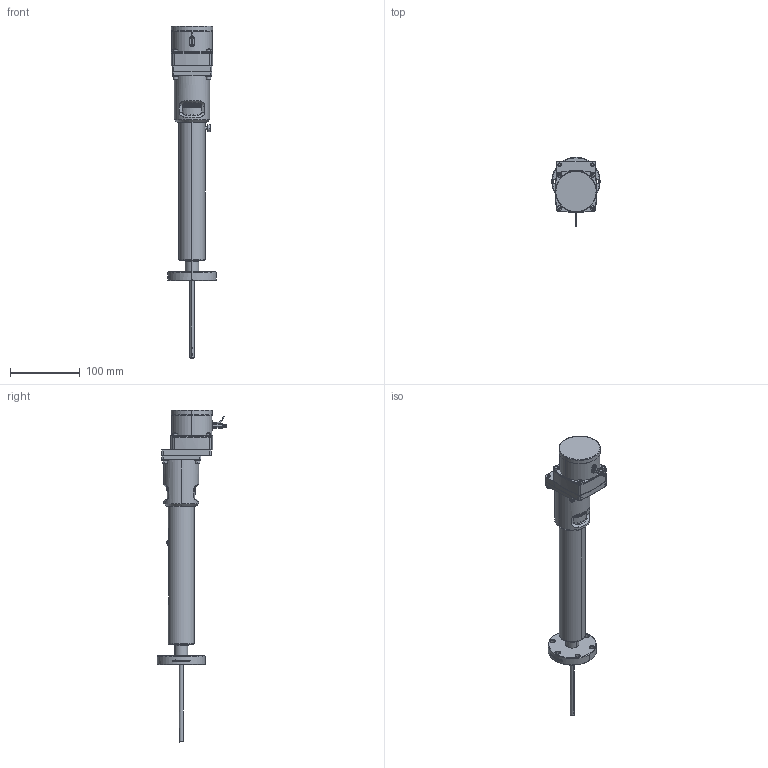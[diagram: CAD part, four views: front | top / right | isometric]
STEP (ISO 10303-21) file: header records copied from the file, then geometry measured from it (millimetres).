
FILE_DESCRIPTION (( 'STEP AP203' ), '1' );
FILE_NAME ('113079.21.stp', '2019-03-06T22:03:07', ( '' ), ( '' ), 'SwSTEP 2.0', 'SolidWorks 2012', '' );
FILE_SCHEMA (( 'CONFIG_CONTROL_DESIGN' ));
Products named in the file (1): 113079.21
Bounding box: 69.34 x 100.24 x 477.49 mm (x, y, z)
Volume: 613990.2 mm3; surface area: 80577.1 mm2
Topology: 1 solids, 22 shells, 1422 faces, 3708 edges, 2384 vertices
Faces by surface type: plane 611, cylinder 429, cone 206, bspline 176
Entity records: 73105 total; most frequent: CARTESIAN_POINT 39434, ORIENTED_EDGE 7392, DIRECTION 6474, EDGE_CURVE 3696, VERTEX_POINT 2383, AXIS2_PLACEMENT_3D 2358, LINE 1758, VECTOR 1758
